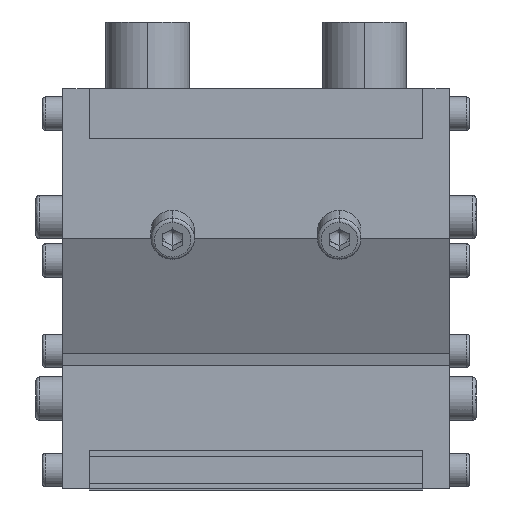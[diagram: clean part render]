
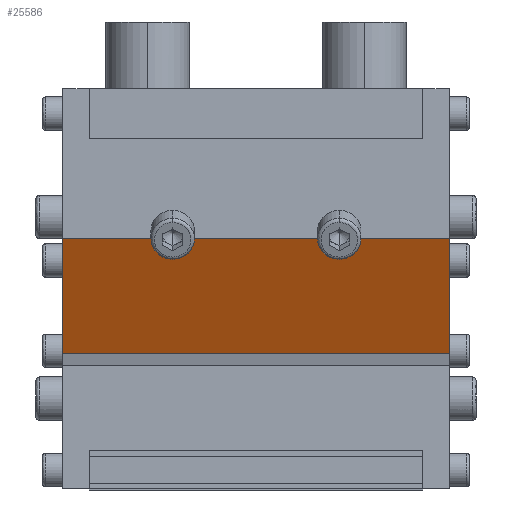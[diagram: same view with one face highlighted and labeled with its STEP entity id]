
A CAD part, left-side view. The second image highlights one B-rep face of the part: STEP entity #25586.
In plain terms, the highlighted planar face has unit normal (-0.897, 0, -0.442).
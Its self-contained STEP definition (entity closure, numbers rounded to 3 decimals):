
#477 = CARTESIAN_POINT ( 'NONE',  ( -158., -58., -64.5 ) ) ;
#478 = ORIENTED_EDGE ( 'NONE', *, *, #7072, .T. ) ;
#902 = CARTESIAN_POINT ( 'NONE',  ( -175., -58., -30.027 ) ) ;
#1380 = ORIENTED_EDGE ( 'NONE', *, *, #11748, .F. ) ;
#1404 = VERTEX_POINT ( 'NONE', #20611 ) ;
#4786 = VECTOR ( 'NONE', #26837, 1000. ) ;
#4793 = FACE_OUTER_BOUND ( 'NONE', #5487, .T. ) ;
#5487 = EDGE_LOOP ( 'NONE', ( #478, #20334, #1380, #23916 ) ) ;
#6632 = DIRECTION ( 'NONE',  ( -0.442, 0., 0.897 ) ) ;
#7072 = EDGE_CURVE ( 'NONE', #18878, #26456, #23255, .T. ) ;
#7846 = CARTESIAN_POINT ( 'NONE',  ( -158., 50., -64.5 ) ) ;
#10371 = CARTESIAN_POINT ( 'NONE',  ( -158., -58., -64.5 ) ) ;
#10885 = CARTESIAN_POINT ( 'NONE',  ( -158., 50., -64.5 ) ) ;
#11748 = EDGE_CURVE ( 'NONE', #1404, #15856, #21036, .T. ) ;
#12673 = AXIS2_PLACEMENT_3D ( 'NONE', #10885, #24046, #6632 ) ;
#12815 = DIRECTION ( 'NONE',  ( -0.442, 0., 0.897 ) ) ;
#13032 = PLANE ( 'NONE',  #12673 ) ;
#15856 = VERTEX_POINT ( 'NONE', #17419 ) ;
#17274 = LINE ( 'NONE', #23800, #19776 ) ;
#17419 = CARTESIAN_POINT ( 'NONE',  ( -175., 58., -30.027 ) ) ;
#18516 = LINE ( 'NONE', #7846, #4786 ) ;
#18878 = VERTEX_POINT ( 'NONE', #477 ) ;
#18931 = CARTESIAN_POINT ( 'NONE',  ( -158., 58., -64.5 ) ) ;
#19752 = EDGE_CURVE ( 'NONE', #1404, #18878, #18516, .T. ) ;
#19776 = VECTOR ( 'NONE', #26461, 1000. ) ;
#20334 = ORIENTED_EDGE ( 'NONE', *, *, #20596, .F. ) ;
#20596 = EDGE_CURVE ( 'NONE', #15856, #26456, #17274, .T. ) ;
#20611 = CARTESIAN_POINT ( 'NONE',  ( -158., 58., -64.5 ) ) ;
#21036 = LINE ( 'NONE', #18931, #26427 ) ;
#23255 = LINE ( 'NONE', #10371, #24824 ) ;
#23545 = DIRECTION ( 'NONE',  ( -0.442, 0., 0.897 ) ) ;
#23800 = CARTESIAN_POINT ( 'NONE',  ( -175., 50., -30.027 ) ) ;
#23916 = ORIENTED_EDGE ( 'NONE', *, *, #19752, .T. ) ;
#24046 = DIRECTION ( 'NONE',  ( -0.897, 0., -0.442 ) ) ;
#24824 = VECTOR ( 'NONE', #23545, 1000. ) ;
#25586 = ADVANCED_FACE ( 'NONE', ( #4793 ), #13032, .T. ) ;
#26427 = VECTOR ( 'NONE', #12815, 1000. ) ;
#26456 = VERTEX_POINT ( 'NONE', #902 ) ;
#26461 = DIRECTION ( 'NONE',  ( 0., -1., 0. ) ) ;
#26837 = DIRECTION ( 'NONE',  ( 0., -1., 0. ) ) ;
